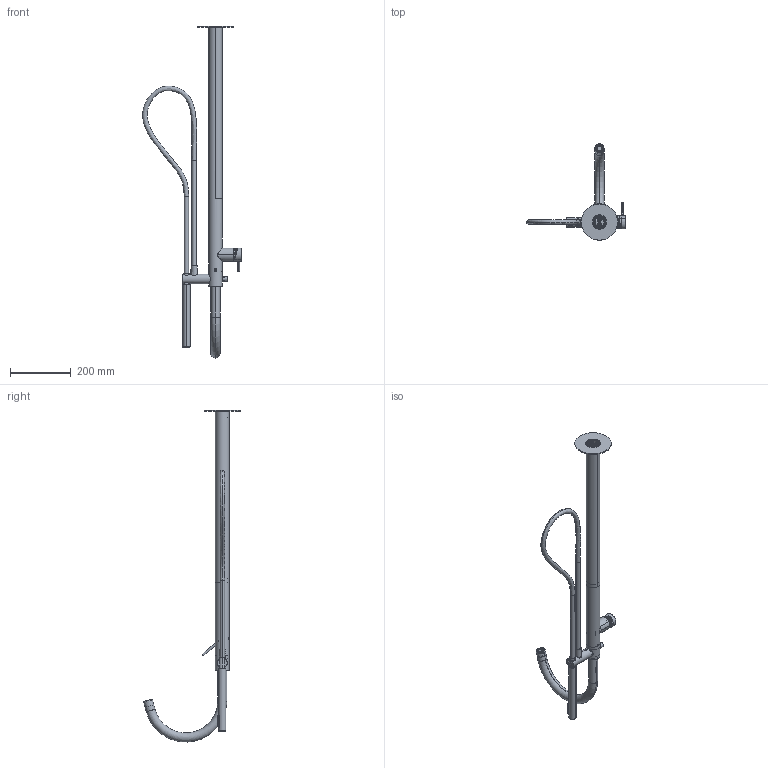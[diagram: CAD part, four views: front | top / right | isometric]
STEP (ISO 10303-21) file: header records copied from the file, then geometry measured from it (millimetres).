
FILE_DESCRIPTION((''),'2;1');
FILE_NAME('6959621_SW0001','2025-02-12T11:26:17',('carloff'),(''),'CREO PARAMETRIC BY PTC INC, 2022014','CREO PARAMETRIC BY PTC INC, 2022014','');
FILE_SCHEMA(('CONFIG_CONTROL_DESIGN'));
Products named in the file (1): 6959621_SW0001
Bounding box: 324.69 x 319.46 x 1093.36 mm (x, y, z)
Volume: 941259.1 mm3; surface area: 604346.9 mm2
Topology: 6 solids, 9 shells, 1845 faces, 4729 edges, 3021 vertices
Faces by surface type: cylinder 760, plane 515, torus 273, cone 242, bspline 45, sphere 10
Entity records: 83682 total; most frequent: CARTESIAN_POINT 38324, DIRECTION 9847, ORIENTED_EDGE 9406, EDGE_CURVE 4703, AXIS2_PLACEMENT_3D 4041, VERTEX_POINT 3021, CIRCLE 2240, EDGE_LOOP 2062
